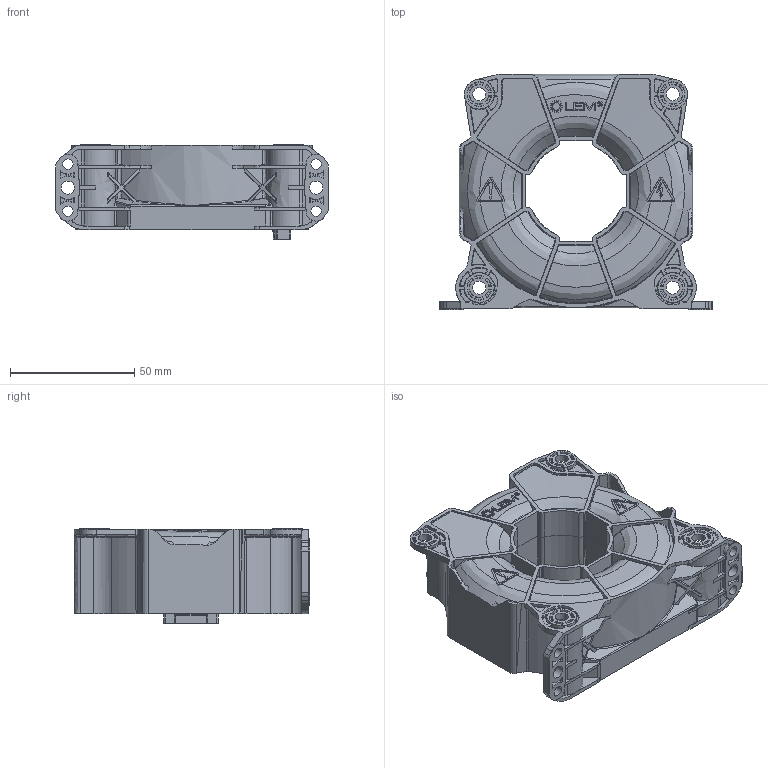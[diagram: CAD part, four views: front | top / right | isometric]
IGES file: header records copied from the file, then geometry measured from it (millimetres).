
Start section: Elysium IGES Interface
Global section: file name: C:\Users\ads\Desktop\90.J9.60.0A6.0.igs; native system: Creo Elements/Direct Modeling 20.1  10-Mar-2018; preprocessor: Creo Element/Direct IGES_3D V2.2; author: Unknown; organization: Unknown; date: 20190903.112328; units: millimetre
Bounding box: 110 x 94.8 x 38.1 mm (x, y, z)
Volume: 204382.5 mm3; surface area: 39033.9 mm2
Topology: 1 solids, 2 shells, 2445 faces, 6159 edges, 3787 vertices
Faces by surface type: bspline 2445
